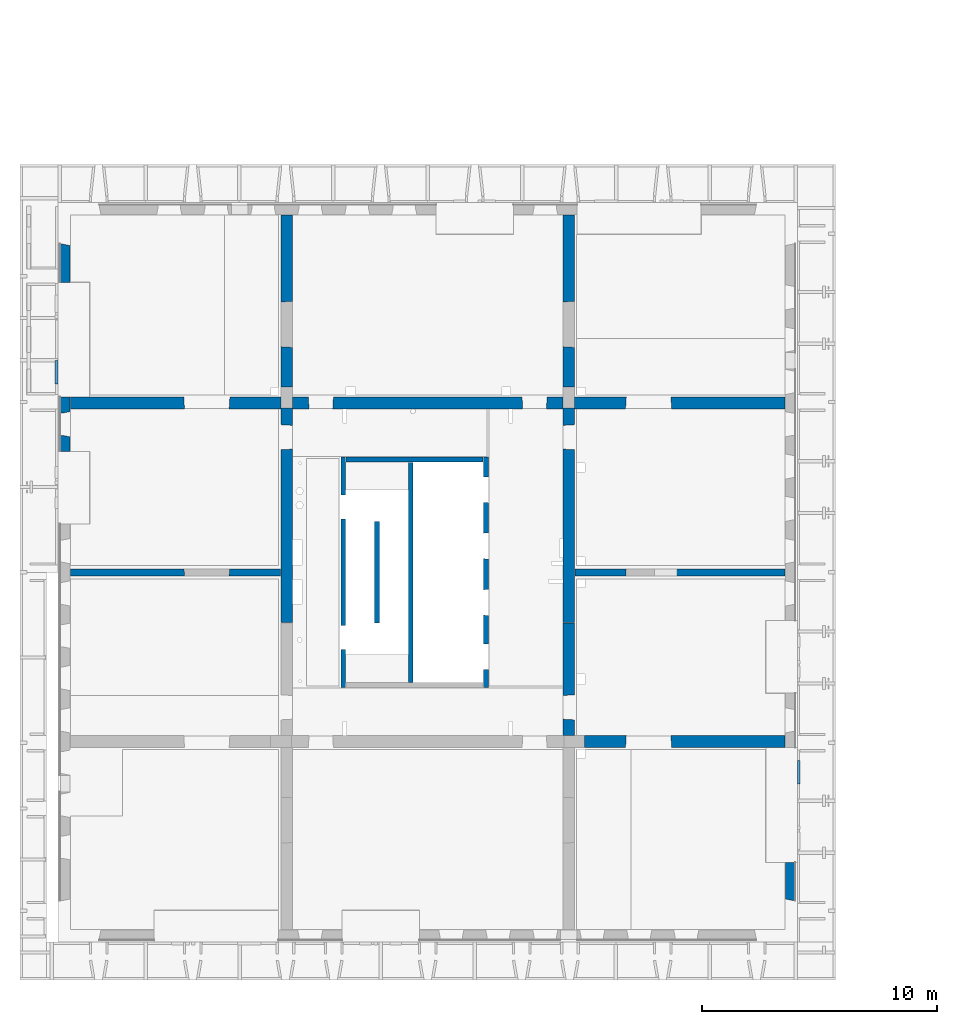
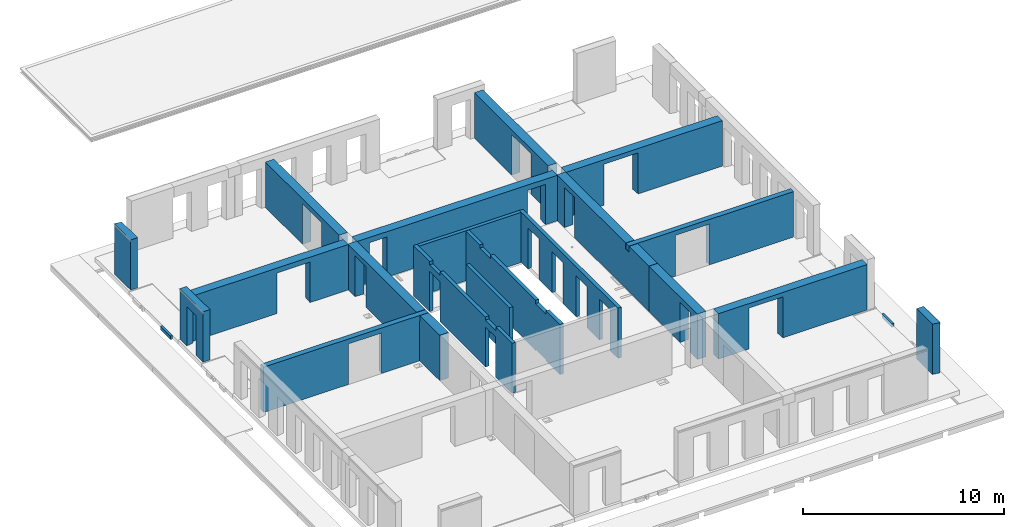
# One storey, part 22 of 27: 21 walls, 35 openings.
"""IFC2X3 building model written with IfcOpenShell, lengths in millimetres."""

from ifc_helpers import new_model, entity, si_unit, converted_unit, derived_unit, direction, frame, frame_2d, origin, origin_2d_with_axis, place, context, subcontext, project, spatial, rectangle, extrude, faceted_brep, material, layer, layer_set, layer_usage, type_object, element, save


model = new_model("IFC2X3")

# Units and contexts
model_context = context("Model", 3, precision=0.01, world=origin(), true_north=direction((6.12303176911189e-17, 1.0)))
body_context = subcontext(model_context, "Body", "Model", "MODEL_VIEW")
ifc_project = project(units=[si_unit("LENGTHUNIT", "METRE", prefix="MILLI"), si_unit("AREAUNIT", "SQUARE_METRE"), si_unit("VOLUMEUNIT", "CUBIC_METRE"), converted_unit("PLANEANGLEUNIT", "DEGREE", entity("IfcRatioMeasure", 0.0174532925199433), si_unit("PLANEANGLEUNIT", "RADIAN"), dimensions=[0, 0, 0, 0, 0, 0, 0]), si_unit("MASSUNIT", "GRAM", prefix="KILO"), derived_unit("MASSDENSITYUNIT", [(si_unit("MASSUNIT", "GRAM", prefix="KILO"), 1), (si_unit("LENGTHUNIT", "METRE"), -3)]), si_unit("TIMEUNIT", "SECOND"), si_unit("FREQUENCYUNIT", "HERTZ"), si_unit("THERMODYNAMICTEMPERATUREUNIT", "DEGREE_CELSIUS"), derived_unit("THERMALTRANSMITTANCEUNIT", [(si_unit("MASSUNIT", "GRAM", prefix="KILO"), 1), (si_unit("THERMODYNAMICTEMPERATUREUNIT", "KELVIN"), -1), (si_unit("TIMEUNIT", "SECOND"), -3)]), derived_unit("VOLUMETRICFLOWRATEUNIT", [(si_unit("LENGTHUNIT", "METRE"), 3), (si_unit("TIMEUNIT", "SECOND"), -1)]), si_unit("ELECTRICCURRENTUNIT", "AMPERE"), si_unit("ELECTRICVOLTAGEUNIT", "VOLT"), si_unit("POWERUNIT", "WATT"), si_unit("FORCEUNIT", "NEWTON", prefix="KILO"), si_unit("ILLUMINANCEUNIT", "LUX"), si_unit("LUMINOUSFLUXUNIT", "LUMEN"), si_unit("LUMINOUSINTENSITYUNIT", "CANDELA"), derived_unit("USERDEFINED", [(si_unit("MASSUNIT", "GRAM", prefix="KILO"), -1), (si_unit("LENGTHUNIT", "METRE"), -2), (si_unit("TIMEUNIT", "SECOND"), 3), (si_unit("LUMINOUSFLUXUNIT", "LUMEN"), 1)]), derived_unit("LINEARVELOCITYUNIT", [(si_unit("LENGTHUNIT", "METRE"), 1), (si_unit("TIMEUNIT", "SECOND"), -1)]), si_unit("PRESSUREUNIT", "PASCAL"), derived_unit("USERDEFINED", [(si_unit("LENGTHUNIT", "METRE"), -2), (si_unit("MASSUNIT", "GRAM", prefix="KILO"), 1), (si_unit("TIMEUNIT", "SECOND"), -2)])], contexts=[model_context])

# Site, building, storey
site_placement = place(None, origin())
site = spatial("IfcSite", under=ifc_project, at=site_placement, Name="Default", CompositionType="ELEMENT")
building_placement = place(site_placement, origin())
building = spatial("IfcBuilding", under=site, at=building_placement, Name="niet gebruiken", CompositionType="ELEMENT")
storey_placement = place(building_placement, frame((0.0, 0.0, 18000.0)))
storey = spatial("IfcBuildingStorey", under=building, at=storey_placement, Name="05 vijfde verdieping", CompositionType="ELEMENT", Elevation=18000.0)

# Wall, openings
ifc_material_1 = material(Name="NLRS_f2_beton prefab")
ifc_layer_1 = layer(ifc_material_1, 200.0)
ifc_layer_set_1 = layer_set([ifc_layer_1], Name="Basic Wall:NLRS_22.21_WA_beton prefab d=200_gen")
ifc_layer_usage_1 = layer_usage(ifc_layer_set_1, "AXIS2", "NEGATIVE", 100.0)
wall_type_1 = type_object("IfcWallType", Name="Basic Wall:NLRS_22.21_WA_beton prefab d=200_gen", PredefinedType="STANDARD", material=ifc_layer_set_1)
wall_1_placement = place(storey_placement, frame((138150.0, 22400.0, -50.0), z_axis=(0.0, 0.0, 1.0), x_axis=(0.0, -1.0, 0.0)))
wall_1 = element("IfcWallStandardCase", 1, at=wall_1_placement, inside=storey, type_object=wall_type_1, material=ifc_layer_usage_1, Name="Basic Wall:NLRS_22.21_WA_beton prefab d=200_gen", ObjectType="Basic Wall:NLRS_22.21_WA_beton prefab d=200_gen", context=body_context, shape_type="SweptSolid", body=[
    extrude(rectangle(XDim=9800.0, YDim=199.999999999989, at=frame_2d((4900.0, 3.76587649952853e-13), x_axis=(-1.0, 0.0))), origin(), (0.0, 0.0, 1.0), 3039.99999999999),
])
opening_1_placement = place(wall_1_placement, origin())
element("IfcOpeningElement", 2, at=opening_1_placement, cuts=wall_1, Name="Basic Wall:NLRS_22.21_WA_beton prefab d=200_gen", ObjectType="Opening", context=body_context, shape_type="SweptSolid", body=[
    extrude(rectangle(XDim=199.999999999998, YDim=1044.0, at=origin_2d_with_axis()), frame((7672.0, -100.0, 2940.0), z_axis=(0.0, 1.0, 0.0), x_axis=(0.0, 0.0, -1.0)), (0.0, 0.0, 1.0), 199.999999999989),
])
opening_2_placement = place(wall_1_placement, origin())
element("IfcOpeningElement", 3, at=opening_2_placement, cuts=wall_1, Name="Basic Wall:NLRS_22.21_WA_beton prefab d=200_gen", ObjectType="Opening", context=body_context, shape_type="SweptSolid", body=[
    extrude(rectangle(XDim=199.999999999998, YDim=1044.0, at=frame_2d((0.0, -2.1600499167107e-12), x_axis=(1.0, 0.0))), frame((2128.0, -100.0, 2940.0), z_axis=(0.0, 1.0, 0.0), x_axis=(0.0, 0.0, -1.0)), (0.0, 0.0, 1.0), 199.999999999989),
])
opening_3_placement = place(wall_1_placement, origin())
element("IfcOpeningElement", 4, at=opening_3_placement, cuts=wall_1, Name="Basic Wall:NLRS_22.21_WA_beton prefab d=200_gen", ObjectType="Opening", context=body_context, shape_type="SweptSolid", body=[
    extrude(rectangle(XDim=2435.00000000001, YDim=1015.99999999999, at=frame_2d((-1.13686837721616e-12, 1.10844666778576e-12), x_axis=(1.0, 0.0))), frame((7672.0, -100.0, 1217.5), z_axis=(0.0, 1.0, 0.0), x_axis=(0.0, 0.0, -1.0)), (0.0, 0.0, 1.0), 199.999999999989),
])
opening_4_placement = place(wall_1_placement, origin())
element("IfcOpeningElement", 5, at=opening_4_placement, cuts=wall_1, Name="Basic Wall:NLRS_22.21_WA_beton prefab d=200_gen", ObjectType="Opening", context=body_context, shape_type="SweptSolid", body=[
    extrude(rectangle(XDim=2435.00000000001, YDim=1015.99999999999, at=frame_2d((-1.13686837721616e-12, -2.18847162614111e-12), x_axis=(1.0, 0.0))), frame((2128.0, -100.0, 1217.5), z_axis=(0.0, 1.0, 0.0), x_axis=(0.0, 0.0, -1.0)), (0.0, 0.0, 1.0), 199.999999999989),
])

ifc_layer_usage_2 = layer_usage(ifc_layer_set_1, "AXIS2", "NEGATIVE", 100.0)
wall_2_placement = place(storey_placement, frame((144230.0, 22400.0, -50.0), z_axis=(0.0, 0.0, 1.0), x_axis=(0.0, -1.0, 0.0)))
wall_2 = element("IfcWallStandardCase", 6, at=wall_2_placement, inside=storey, type_object=wall_type_1, material=ifc_layer_usage_2, Name="Basic Wall:NLRS_22.21_WA_beton prefab d=200_gen", ObjectType="Basic Wall:NLRS_22.21_WA_beton prefab d=200_gen", context=body_context, shape_type="SweptSolid", body=[
    extrude(rectangle(XDim=9800.0, YDim=199.999999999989, at=frame_2d((4900.0, -3.69482222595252e-13), x_axis=(-1.0, 0.0))), origin(), (0.0, 0.0, 1.0), 3039.99999999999),
])
opening_5_placement = place(wall_2_placement, frame((9047.0, -100.0, 0.0)))
element("IfcOpeningElement", 7, at=opening_5_placement, cuts=wall_2, Name="Basic Wall:NLRS_22.21_WA_beton prefab d=200_gen", ObjectType="Opening", context=body_context, shape_type="Brep", body=[
    faceted_brep([(-1104.0, 200.0, 2502.0), (-1104.0, 200.0, 0.0), (-1092.0, 0.0, 0.0), (-1092.0, 0.0, 2490.0), (0.0, 200.0, 0.0), (-12.0, 0.0, 0.0), (-12.0, 0.0, 2490.0), (0.0, 200.0, 2502.0)], [[[0, 1, 2, 3]], [[1, 4, 5, 2]], [[6, 3, 2, 5]], [[7, 4, 1, 0]], [[7, 0, 3, 6]], [[4, 7, 6, 5]]]),
])
opening_6_placement = place(wall_2_placement, frame((6737.0, -100.0, 0.0)))
element("IfcOpeningElement", 8, at=opening_6_placement, cuts=wall_2, Name="Basic Wall:NLRS_22.21_WA_beton prefab d=200_gen", ObjectType="Opening", context=body_context, shape_type="Brep", body=[
    faceted_brep([(-1104.0, 200.0, 2502.0), (-1104.0, 200.0, 0.0), (-1092.0, 0.0, 0.0), (-1092.0, 0.0, 2490.0), (0.0, 200.0, 0.0), (-12.0, 0.0, 0.0), (-12.0, 0.0, 2490.0), (0.0, 200.0, 2502.0)], [[[0, 1, 2, 3]], [[1, 4, 5, 2]], [[6, 3, 2, 5]], [[7, 4, 1, 0]], [[7, 0, 3, 6]], [[4, 7, 6, 5]]]),
])
opening_7_placement = place(wall_2_placement, frame((4332.0, -100.0, 0.0)))
element("IfcOpeningElement", 9, at=opening_7_placement, cuts=wall_2, Name="Basic Wall:NLRS_22.21_WA_beton prefab d=200_gen", ObjectType="Opening", context=body_context, shape_type="Brep", body=[
    faceted_brep([(-1104.0, 200.0, 2502.0), (-1104.0, 200.0, 0.0), (-1092.0, 0.0, 0.0), (-1092.0, 0.0, 2490.0), (0.0, 200.0, 0.0), (-12.0, 0.0, 0.0), (-12.0, 0.0, 2490.0), (0.0, 200.0, 2502.0)], [[[0, 1, 2, 3]], [[1, 4, 5, 2]], [[6, 3, 2, 5]], [[7, 4, 1, 0]], [[7, 0, 3, 6]], [[4, 7, 6, 5]]]),
])
opening_8_placement = place(wall_2_placement, frame((1942.0, -100.0, 0.0)))
element("IfcOpeningElement", 10, at=opening_8_placement, cuts=wall_2, Name="Basic Wall:NLRS_22.21_WA_beton prefab d=200_gen", ObjectType="Opening", context=body_context, shape_type="Brep", body=[
    faceted_brep([(-1104.0, 200.0, 2502.0), (-1104.0, 200.0, 0.0), (-1092.0, 0.0, 0.0), (-1092.0, 0.0, 2490.0), (0.0, 200.0, 0.0), (-12.0, 0.0, 0.0), (-12.0, 0.0, 2490.0), (0.0, 200.0, 2502.0)], [[[0, 1, 2, 3]], [[1, 4, 5, 2]], [[6, 3, 2, 5]], [[7, 4, 1, 0]], [[7, 0, 3, 6]], [[4, 7, 6, 5]]]),
])

ifc_layer_usage_3 = layer_usage(ifc_layer_set_1, "AXIS2", "NEGATIVE", 100.0)
wall_3_placement = place(storey_placement, frame((141030.0, 22180.0, -50.0), z_axis=(0.0, 0.0, 1.0), x_axis=(0.0, -1.0, 0.0)))
wall_3 = element("IfcWallStandardCase", 11, at=wall_3_placement, inside=storey, type_object=wall_type_1, material=ifc_layer_usage_3, Name="Basic Wall:NLRS_22.21_WA_beton prefab d=200_gen", ObjectType="Basic Wall:NLRS_22.21_WA_beton prefab d=200_gen", context=body_context, shape_type="SweptSolid", body=[
    extrude(rectangle(XDim=9360.0, YDim=199.999999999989, at=frame_2d((4680.0, -2.8421709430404e-14), x_axis=(-1.0, 0.0))), origin(), (0.0, 0.0, 1.0), 3039.99999999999),
])
opening_9_placement = place(wall_3_placement, origin())
element("IfcOpeningElement", 12, at=opening_9_placement, cuts=wall_3, Name="Basic Wall:NLRS_22.21_WA_beton prefab d=200_gen", ObjectType="Opening", context=body_context, shape_type="SweptSolid", body=[
    extrude(rectangle(XDim=70.0000000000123, YDim=1044.0, at=frame_2d((1.08357767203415e-12, 0.0), x_axis=(1.0, 0.0))), frame((7452.0, -100.0, 35.0), z_axis=(0.0, 1.0, 0.0), x_axis=(0.0, 0.0, -1.0)), (0.0, 0.0, 1.0), 199.999999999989),
])
opening_10_placement = place(wall_3_placement, origin())
element("IfcOpeningElement", 13, at=opening_10_placement, cuts=wall_3, Name="Basic Wall:NLRS_22.21_WA_beton prefab d=200_gen", ObjectType="Opening", context=body_context, shape_type="SweptSolid", body=[
    extrude(rectangle(XDim=70.0000000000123, YDim=1044.0, at=frame_2d((1.08357767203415e-12, 2.1600499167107e-12), x_axis=(1.0, 0.0))), frame((1908.0, -100.0, 35.0), z_axis=(0.0, 1.0, 0.0), x_axis=(0.0, 0.0, -1.0)), (0.0, 0.0, 1.0), 199.999999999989),
])
opening_11_placement = place(wall_3_placement, origin())
element("IfcOpeningElement", 14, at=opening_11_placement, cuts=wall_3, Name="Basic Wall:NLRS_22.21_WA_beton prefab d=200_gen", ObjectType="Opening", context=body_context, shape_type="SweptSolid", body=[
    extrude(rectangle(XDim=200.000000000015, YDim=1044.0, at=frame_2d((0.0, 2.1600499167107e-12), x_axis=(1.0, 0.0))), frame((1908.0, -100.0, 2940.0), z_axis=(0.0, 1.0, 0.0), x_axis=(0.0, 0.0, -1.0)), (0.0, 0.0, 1.0), 199.999999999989),
])
opening_12_placement = place(wall_3_placement, origin())
element("IfcOpeningElement", 15, at=opening_12_placement, cuts=wall_3, Name="Basic Wall:NLRS_22.21_WA_beton prefab d=200_gen", ObjectType="Opening", context=body_context, shape_type="SweptSolid", body=[
    extrude(rectangle(XDim=200.000000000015, YDim=1044.0, at=frame_2d((0.0, 2.1600499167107e-12), x_axis=(1.0, 0.0))), frame((7452.0, -100.0, 2940.0), z_axis=(0.0, 1.0, 0.0), x_axis=(0.0, 0.0, -1.0)), (0.0, 0.0, 1.0), 199.999999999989),
])
opening_13_placement = place(wall_3_placement, origin())
element("IfcOpeningElement", 16, at=opening_13_placement, cuts=wall_3, Name="Basic Wall:NLRS_22.21_WA_beton prefab d=200_gen", ObjectType="Recess", context=body_context, shape_type="SweptSolid", body=[
    extrude(rectangle(XDim=399.999999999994, YDim=279.999999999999, at=frame_2d((-1.08002495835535e-12, 1.08002495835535e-12), x_axis=(0.0, 1.0))), frame((3960.0, -60.0, 438.0), z_axis=(0.0, 1.0, 0.0), x_axis=(1.0, 0.0, 0.0)), (0.0, 0.0, 1.0), 159.999999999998),
])
opening_14_placement = place(wall_3_placement, origin())
element("IfcOpeningElement", 17, at=opening_14_placement, cuts=wall_3, Name="Basic Wall:NLRS_22.21_WA_beton prefab d=200_gen", ObjectType="Recess", context=body_context, shape_type="SweptSolid", body=[
    extrude(rectangle(XDim=399.999999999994, YDim=279.999999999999, at=frame_2d((1.08002495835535e-12, -1.08002495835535e-12), x_axis=(0.0, 1.0))), frame((3160.0, -60.0, 438.0), z_axis=(0.0, 1.0, 0.0), x_axis=(1.0, 0.0, 0.0)), (0.0, 0.0, 1.0), 159.999999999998),
])
opening_15_placement = place(wall_3_placement, origin())
element("IfcOpeningElement", 18, at=opening_15_placement, cuts=wall_3, Name="Basic Wall:NLRS_22.21_WA_beton prefab d=200_gen", ObjectType="Recess", context=body_context, shape_type="SweptSolid", body=[
    extrude(rectangle(XDim=399.999999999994, YDim=280.000000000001, at=frame_2d((-2.1600499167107e-12, 1.08002495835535e-12), x_axis=(0.0, 1.0))), frame((1570.0, -60.0, 438.0), z_axis=(0.0, 1.0, 0.0), x_axis=(1.0, 0.0, 0.0)), (0.0, 0.0, 1.0), 159.999999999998),
])
opening_16_placement = place(wall_3_placement, origin())
element("IfcOpeningElement", 19, at=opening_16_placement, cuts=wall_3, Name="Basic Wall:NLRS_22.21_WA_beton prefab d=200_gen", ObjectType="Recess", context=body_context, shape_type="SweptSolid", body=[
    extrude(rectangle(XDim=399.999999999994, YDim=280.000000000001, at=frame_2d((-2.1600499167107e-12, 1.08002495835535e-12), x_axis=(0.0, 1.0))), frame((770.0, -60.0, 438.0), z_axis=(0.0, 1.0, 0.0), x_axis=(1.0, 0.0, 0.0)), (0.0, 0.0, 1.0), 159.999999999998),
])

# Walls
ifc_layer_usage_4 = layer_usage(ifc_layer_set_1, "AXIS2", "NEGATIVE", 100.0)
wall_4_placement = place(storey_placement, frame((139590.0, 19660.0, -50.0), z_axis=(0.0, 0.0, 1.0), x_axis=(0.0, -1.0, 0.0)))
element("IfcWallStandardCase", 20, at=wall_4_placement, inside=storey, type_object=wall_type_1, material=ifc_layer_usage_4, Name="Basic Wall:NLRS_22.21_WA_beton prefab d=200_gen", ObjectType="Basic Wall:NLRS_22.21_WA_beton prefab d=200_gen", context=body_context, shape_type="SweptSolid", body=[
    extrude(rectangle(XDim=4320.00000000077, YDim=199.999999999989, at=frame_2d((2160.00000000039, 0.0), x_axis=(-1.0, 0.0))), origin(), (0.0, 0.0, 1.0), 3039.99999999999),
])
ifc_layer_usage_5 = layer_usage(ifc_layer_set_1, "AXIS2", "NEGATIVE", 100.0)
wall_5_placement = place(storey_placement, frame((138270.0, 22300.0, -50.0)))
element("IfcWallStandardCase", 21, at=wall_5_placement, inside=storey, type_object=wall_type_1, material=ifc_layer_usage_5, Name="Basic Wall:NLRS_22.21_WA_beton prefab d=200_gen", ObjectType="Basic Wall:NLRS_22.21_WA_beton prefab d=200_gen", context=body_context, shape_type="SweptSolid", body=[
    extrude(rectangle(XDim=5839.99999999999, YDim=199.999999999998, at=frame_2d((2919.99999999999, -7.60280727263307e-13), x_axis=(-1.0, 0.0))), origin(), (0.0, 0.0, 1.0), 3039.99999999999),
])

# Wall, openings
ifc_layer_2 = layer(ifc_material_1, 300.0)
ifc_layer_set_2 = layer_set([ifc_layer_2], Name="Basic Wall:NLRS_22.21_WA_beton prefab d=300_gen")
ifc_layer_usage_6 = layer_usage(ifc_layer_set_2, "AXIS2", "NEGATIVE", 150.0)
wall_type_2 = type_object("IfcWallType", Name="Basic Wall:NLRS_22.21_WA_beton prefab d=300_gen", PredefinedType="STANDARD", material=ifc_layer_set_2)
wall_6_placement = place(storey_placement, frame((126540.0, 17500.0, -60.0)))
wall_6 = element("IfcWallStandardCase", 22, at=wall_6_placement, inside=storey, type_object=wall_type_2, material=ifc_layer_usage_6, Name="Basic Wall:NLRS_22.21_WA_beton prefab d=300_gen", ObjectType="Basic Wall:NLRS_22.21_WA_beton prefab d=300_gen", context=body_context, shape_type="SweptSolid", body=[
    extrude(rectangle(XDim=9459.99999999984, YDim=300.000000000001, at=frame_2d((4729.99999999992, -2.70006239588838e-13), x_axis=(-1.0, 0.0))), origin(), (0.0, 0.0, 1.0), 2759.99999999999),
])
opening_17_placement = place(wall_6_placement, frame((4842.0, -150.0, 0.0)))
element("IfcOpeningElement", 23, at=opening_17_placement, cuts=wall_6, Name="Basic Wall:NLRS_22.21_WA_beton prefab d=300_gen", ObjectType="Opening", context=body_context, shape_type="Brep", body=[
    faceted_brep([(0.0, 300.0, 2478.0), (0.0, 300.0, 0.0), (18.0, 0.0, 0.0), (18.0, 0.0, 2460.0), (1936.0, 300.0, 0.0), (1918.0, 0.0, 0.0), (1918.0, 0.0, 2460.0), (1936.0, 300.0, 2478.0)], [[[0, 1, 2, 3]], [[1, 4, 5, 2]], [[6, 3, 2, 5]], [[7, 4, 1, 0]], [[7, 0, 3, 6]], [[4, 7, 6, 5]]]),
])
opening_18_placement = place(wall_6_placement, origin())
element("IfcOpeningElement", 24, at=opening_18_placement, cuts=wall_6, Name="Basic Wall:NLRS_22.21_WA_beton prefab d=300_gen", ObjectType="Opening", context=body_context, shape_type="SweptSolid", body=[
    extrude(rectangle(XDim=2430.0, YDim=520.000000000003, at=frame_2d((8.64019966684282e-12, 0.0), x_axis=(0.0, 1.0))), frame((9200.0, 150.0, 1215.0), z_axis=(0.0, -1.0, 0.0), x_axis=(1.0, 0.0, 0.0)), (0.0, 0.0, 1.0), 300.0),
])

ifc_layer_usage_7 = layer_usage(ifc_layer_set_2, "AXIS2", "NEGATIVE", 150.0)
wall_7_placement = place(storey_placement, frame((156960.0, 17500.0, -60.0), z_axis=(0.0, 0.0, 1.0), x_axis=(-1.0, 0.0, 0.0)))
wall_7 = element("IfcWallStandardCase", 25, at=wall_7_placement, inside=storey, type_object=wall_type_2, material=ifc_layer_usage_7, Name="Basic Wall:NLRS_22.21_WA_beton prefab d=300_gen", ObjectType="Basic Wall:NLRS_22.21_WA_beton prefab d=300_gen", context=body_context, shape_type="SweptSolid", body=[
    extrude(rectangle(XDim=9459.99999999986, YDim=300.000000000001, at=frame_2d((4729.99999999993, -1.4210854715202e-14), x_axis=(-1.0, 0.0))), origin(), (0.0, 0.0, 1.0), 2759.99999999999),
])
opening_19_placement = place(wall_7_placement, frame((6778.0, 150.0, 0.0)))
element("IfcOpeningElement", 26, at=opening_19_placement, cuts=wall_7, Name="Basic Wall:NLRS_22.21_WA_beton prefab d=300_gen", ObjectType="Opening", context=body_context, shape_type="Brep", body=[
    faceted_brep([(-1936.0, 0.0, 2478.0), (-1936.0, 0.0, 0.0), (-1918.0, -300.0, 0.0), (-1918.0, -300.0, 2460.0), (0.0, 0.0, 0.0), (-18.0, -300.0, 0.0), (-18.0, -300.0, 2460.0), (0.0, 0.0, 2478.0)], [[[0, 1, 2, 3]], [[1, 4, 5, 2]], [[6, 3, 2, 5]], [[7, 4, 1, 0]], [[7, 0, 3, 6]], [[4, 7, 6, 5]]]),
])
opening_20_placement = place(wall_7_placement, origin())
element("IfcOpeningElement", 27, at=opening_20_placement, cuts=wall_7, Name="Basic Wall:NLRS_22.21_WA_beton prefab d=300_gen", ObjectType="Opening", context=body_context, shape_type="SweptSolid", body=[
    extrude(rectangle(XDim=2430.0, YDim=520.00000000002, at=frame_2d((0.0, 0.0), x_axis=(0.0, 1.0))), frame((9200.0, 150.0, 1215.0), z_axis=(0.0, -1.0, 0.0), x_axis=(1.0, 0.0, 0.0)), (0.0, 0.0, 1.0), 300.0),
])

# Wall, opening
ifc_layer_3 = layer(ifc_material_1, 400.0)
ifc_layer_set_3 = layer_set([ifc_layer_3], Name="Basic Wall:NLRS_21.21_WA_beton prefab d=400/420_gen")
ifc_layer_usage_8 = layer_usage(ifc_layer_set_3, "AXIS2", "NEGATIVE", 200.0)
wall_type_3 = type_object("IfcWallType", Name="Basic Wall:NLRS_21.21_WA_beton prefab d=400/420_gen", PredefinedType="STANDARD", material=ifc_layer_set_3)
wall_8_placement = place(storey_placement, frame((126320.0, 29840.0, -60.0), z_axis=(0.0, 0.0, 1.0), x_axis=(0.0, 1.0, 0.0)))
wall_8 = element("IfcWallStandardCase", 28, at=wall_8_placement, inside=storey, type_object=wall_type_3, material=ifc_layer_usage_8, Name="Basic Wall:NLRS_21.21_WA_beton prefab d=400/420_gen", ObjectType="Basic Wall:NLRS_21.21_WA_beton prefab d=400/420_gen", context=body_context, shape_type="SweptSolid", body=[
    extrude(rectangle(XDim=1629.99999999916, YDim=400.000000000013, at=frame_2d((814.999999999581, 2.41584530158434e-12), x_axis=(-1.0, 0.0))), origin(), (0.0, 0.0, 1.0), 3049.99999999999),
])
opening_21_placement = place(wall_8_placement, frame((1565.0, 119.0, 0.0)))
element("IfcOpeningElement", 29, at=opening_21_placement, cuts=wall_8, Name="Basic Wall:NLRS_21.21_WA_beton prefab d=400/420_gen", ObjectType="Opening", context=body_context, shape_type="Brep", body=[
    faceted_brep([(65.0, -319.0, 3050.0), (65.0, 0.0, 3050.0), (0.0, -319.0, 3050.0), (65.0, -319.0, 0.0), (0.0, -319.0, 0.0), (65.0, 0.0, 0.0)], [[[0, 1, 2]], [[3, 4, 5]], [[2, 4, 3, 0]], [[0, 3, 5, 1]], [[1, 5, 4, 2]]]),
])

ifc_layer_usage_9 = layer_usage(ifc_layer_set_3, "AXIS2", "NEGATIVE", 200.0)
wall_9_placement = place(storey_placement, frame((157180.0, 5160.0, -60.0), z_axis=(0.0, 0.0, 1.0), x_axis=(0.0, -1.0, 0.0)))
wall_9 = element("IfcWallStandardCase", 30, at=wall_9_placement, inside=storey, type_object=wall_type_3, material=ifc_layer_usage_9, Name="Basic Wall:NLRS_21.21_WA_beton prefab d=400/420_gen", ObjectType="Basic Wall:NLRS_21.21_WA_beton prefab d=400/420_gen", context=body_context, shape_type="SweptSolid", body=[
    extrude(rectangle(XDim=1629.99999999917, YDim=399.999999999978, at=frame_2d((814.999999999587, 6.28119778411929e-12), x_axis=(-1.0, 0.0))), origin(), (0.0, 0.0, 1.0), 3049.99999999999),
])
opening_22_placement = place(wall_9_placement, frame((1630.0, -200.0, 0.0)))
element("IfcOpeningElement", 31, at=opening_22_placement, cuts=wall_9, Name="Basic Wall:NLRS_21.21_WA_beton prefab d=400/420_gen", ObjectType="Opening", context=body_context, shape_type="Brep", body=[
    faceted_brep([(0.0, 0.0, 3050.0), (0.0, 319.0, 3050.0), (-65.0, 0.0, 3050.0), (0.0, 0.0, 0.0), (-65.0, 0.0, 0.0), (0.0, 319.0, 0.0)], [[[0, 1, 2]], [[3, 4, 5]], [[2, 4, 3, 0]], [[0, 3, 5, 1]], [[1, 5, 4, 2]]]),
])

ifc_layer_usage_10 = layer_usage(ifc_layer_set_3, "AXIS2", "NEGATIVE", 200.0)
wall_10_placement = place(storey_placement, frame((126320.0, 22640.0, -60.0), z_axis=(0.0, 0.0, 1.0), x_axis=(0.0, 1.0, 0.0)))
wall_10 = element("IfcWallStandardCase", 32, at=wall_10_placement, inside=storey, type_object=wall_type_3, material=ifc_layer_usage_10, Name="Basic Wall:NLRS_21.21_WA_beton prefab d=400/420_gen", ObjectType="Basic Wall:NLRS_21.21_WA_beton prefab d=400/420_gen", context=body_context, shape_type="SweptSolid", body=[
    extrude(rectangle(XDim=2320.00000000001, YDim=400.000000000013, at=frame_2d((1160.0, -3.62376795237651e-12), x_axis=(-1.0, 0.0))), origin(), (0.0, 0.0, 1.0), 3049.99999999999),
])
opening_23_placement = place(wall_10_placement, frame((625.0, 200.0, 0.0)))
element("IfcOpeningElement", 33, at=opening_23_placement, cuts=wall_10, Name="Basic Wall:NLRS_21.21_WA_beton prefab d=400/420_gen", ObjectType="Opening", context=body_context, shape_type="Brep", body=[
    faceted_brep([(1070.0, -400.0, 0.0), (1005.0, -81.0, 0.0), (1005.0, -81.0, 2380.0), (1070.0, -400.0, 2415.0), (1005.0, 0.0, 2380.0), (1005.0, 0.0, 0.0), (0.0, -400.0, 2415.0), (0.0, -400.0, 0.0), (65.0, -81.0, 2380.0), (65.0, -81.0, 0.0), (65.0, 0.0, 0.0), (65.0, 0.0, 2380.0)], [[[0, 1, 2, 3]], [[4, 2, 1, 5]], [[6, 7, 0, 3]], [[3, 2, 8, 6]], [[7, 9, 10, 5, 1, 0]], [[6, 8, 9, 7]], [[11, 4, 5, 10]], [[11, 8, 2, 4]], [[10, 9, 8, 11]]]),
])

# Wall, openings
ifc_layer_4 = layer(ifc_material_1, 500.0)
ifc_layer_set_4 = layer_set([ifc_layer_4], Name="Basic Wall:NLRS_22.21_WA_beton prefab d=500_gen")
ifc_layer_usage_11 = layer_usage(ifc_layer_set_4, "AXIS2", "NEGATIVE", 250.0)
wall_type_4 = type_object("IfcWallType", Name="Basic Wall:NLRS_22.21_WA_beton prefab d=500_gen", PredefinedType="STANDARD", material=ifc_layer_set_4)
wall_11_placement = place(storey_placement, frame((136000.0, 24700.0, -60.0)))
wall_11 = element("IfcWallStandardCase", 34, at=wall_11_placement, inside=storey, type_object=wall_type_4, material=ifc_layer_usage_11, Name="Basic Wall:NLRS_22.21_WA_beton prefab d=500_gen", ObjectType="Basic Wall:NLRS_22.21_WA_beton prefab d=500_gen", context=body_context, shape_type="SweptSolid", body=[
    extrude(rectangle(XDim=11499.9999999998, YDim=499.999999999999, at=frame_2d((5749.99999999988, 0.0), x_axis=(-1.0, 0.0))), origin(), (0.0, 0.0, 1.0), 2759.99999999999),
])
opening_24_placement = place(wall_11_placement, frame((9764.0, -250.0, 0.0)))
element("IfcOpeningElement", 35, at=opening_24_placement, cuts=wall_11, Name="Basic Wall:NLRS_22.21_WA_beton prefab d=500_gen", ObjectType="Opening", context=body_context, shape_type="Brep", body=[
    faceted_brep([(30.0, 0.0, 2438.0), (30.0, 0.0, 0.0), (1036.0, 0.0, 0.0), (1036.0, 0.0, 2438.0), (0.0, 500.0, 2468.0), (1066.0, 500.0, 2468.0), (1066.0, 500.0, 0.0), (0.0, 500.0, 0.0)], [[[0, 1, 2, 3]], [[4, 5, 6, 7]], [[4, 0, 3, 5]], [[5, 3, 2, 6]], [[6, 2, 1, 7]], [[7, 1, 0, 4]]]),
])
opening_25_placement = place(wall_11_placement, frame((670.0, -250.0, 0.0)))
element("IfcOpeningElement", 36, at=opening_25_placement, cuts=wall_11, Name="Basic Wall:NLRS_22.21_WA_beton prefab d=500_gen", ObjectType="Opening", context=body_context, shape_type="Brep", body=[
    faceted_brep([(1066.0, 500.0, 2468.0), (1036.0, 0.0, 2438.0), (1036.0, 0.0, 0.0), (1066.0, 500.0, 0.0), (30.0, 0.0, 0.0), (0.0, 500.0, 0.0), (30.0, 0.0, 2438.0), (0.0, 500.0, 2468.0)], [[[0, 1, 2, 3]], [[3, 2, 4, 5]], [[6, 4, 2, 1]], [[7, 0, 3, 5]], [[7, 6, 1, 0]], [[5, 4, 6, 7]]]),
])

# Wall, opening
ifc_layer_usage_12 = layer_usage(ifc_layer_set_4, "AXIS2", "NEGATIVE", 250.0)
wall_12_placement = place(storey_placement, frame((147750.0, 15340.0, -60.0), z_axis=(0.0, 0.0, 1.0), x_axis=(0.0, -1.0, 0.0)))
wall_12 = element("IfcWallStandardCase", 37, at=wall_12_placement, inside=storey, type_object=wall_type_4, material=ifc_layer_usage_12, Name="Basic Wall:NLRS_22.21_WA_beton prefab d=500_gen", ObjectType="Basic Wall:NLRS_22.21_WA_beton prefab d=500_gen", context=body_context, shape_type="SweptSolid", body=[
    extrude(rectangle(XDim=4789.99999999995, YDim=499.99999999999, at=frame_2d((2394.99999999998, 0.0), x_axis=(-1.0, 0.0))), origin(), (0.0, 0.0, 1.0), 2760.0),
])
opening_26_placement = place(wall_12_placement, frame((4120.0, -250.0, 0.0)))
element("IfcOpeningElement", 38, at=opening_26_placement, cuts=wall_12, Name="Basic Wall:NLRS_22.21_WA_beton prefab d=500_gen", ObjectType="Opening", context=body_context, shape_type="Brep", body=[
    faceted_brep([(-1066.0, 500.0, 2468.0), (-1066.0, 500.0, 0.0), (-1036.0, 0.0, 0.0), (-1036.0, 0.0, 2438.0), (0.0, 500.0, 0.0), (-30.0, 0.0, 0.0), (-30.0, 0.0, 2438.0), (0.0, 500.0, 2468.0)], [[[0, 1, 2, 3]], [[1, 4, 5, 2]], [[6, 3, 2, 5]], [[7, 4, 1, 0]], [[7, 0, 3, 6]], [[4, 7, 6, 5]]]),
])

# Wall, openings
ifc_layer_usage_13 = layer_usage(ifc_layer_set_4, "AXIS2", "NEGATIVE", 250.0)
wall_13_placement = place(storey_placement, frame((135750.0, 24500.0, -60.0), z_axis=(0.0, 0.0, 1.0), x_axis=(0.0, -1.0, 0.0)))
wall_13 = element("IfcWallStandardCase", 39, at=wall_13_placement, inside=storey, type_object=wall_type_4, material=ifc_layer_usage_13, Name="Basic Wall:NLRS_22.21_WA_beton prefab d=500_gen", ObjectType="Basic Wall:NLRS_22.21_WA_beton prefab d=500_gen", context=body_context, shape_type="SweptSolid", body=[
    extrude(rectangle(XDim=9140.0, YDim=499.99999999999, at=frame_2d((4570.0, 5.6843418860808e-14), x_axis=(-1.0, 0.0))), origin(), (0.0, 0.0, 1.0), 2760.00000000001),
])
opening_27_placement = place(wall_13_placement, frame((1786.0, -250.0, 0.0)))
element("IfcOpeningElement", 40, at=opening_27_placement, cuts=wall_13, Name="Basic Wall:NLRS_22.21_WA_beton prefab d=500_gen", ObjectType="Opening", context=body_context, shape_type="Brep", body=[
    faceted_brep([(-1066.0, 0.0, 2468.0), (-1036.0, 500.0, 2438.0), (-1036.0, 500.0, 0.0), (-1066.0, 0.0, 0.0), (-30.0, 500.0, 0.0), (0.0, 0.0, 0.0), (-30.0, 500.0, 2438.0), (0.0, 0.0, 2468.0)], [[[0, 1, 2, 3]], [[3, 2, 4, 5]], [[6, 4, 2, 1]], [[7, 0, 3, 5]], [[7, 6, 1, 0]], [[5, 4, 6, 7]]]),
])
opening_28_placement = place(wall_13_placement, origin())
element("IfcOpeningElement", 41, at=opening_28_placement, cuts=wall_13, Name="Basic Wall:NLRS_22.21_WA_beton prefab d=500_gen", ObjectType="Opening", context=body_context, shape_type="SweptSolid", body=[
    extrude(rectangle(XDim=349.999999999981, YDim=340.000000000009, at=frame_2d((0.0, 4.33431068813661e-12), x_axis=(0.0, 1.0))), frame((7000.0, 250.0, 2585.0), z_axis=(0.0, -1.0, 0.0), x_axis=(-1.0, 0.0, 0.0)), (0.0, 0.0, 1.0), 500.0),
])

ifc_layer_usage_14 = layer_usage(ifc_layer_set_4, "AXIS2", "NEGATIVE", 250.0)
wall_14_placement = place(storey_placement, frame((147750.0, 24500.0, -60.0), z_axis=(0.0, 0.0, 1.0), x_axis=(0.0, -1.0, 0.0)))
wall_14 = element("IfcWallStandardCase", 42, at=wall_14_placement, inside=storey, type_object=wall_type_4, material=ifc_layer_usage_14, Name="Basic Wall:NLRS_22.21_WA_beton prefab d=500_gen", ObjectType="Basic Wall:NLRS_22.21_WA_beton prefab d=500_gen", context=body_context, shape_type="SweptSolid", body=[
    extrude(rectangle(XDim=9140.00000000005, YDim=499.99999999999, at=frame_2d((4570.00000000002, -1.4210854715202e-14), x_axis=(-1.0, 0.0))), origin(), (0.0, 0.0, 1.0), 2759.99999999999),
])
opening_29_placement = place(wall_14_placement, frame((1786.0, -250.0, 0.0)))
element("IfcOpeningElement", 43, at=opening_29_placement, cuts=wall_14, Name="Basic Wall:NLRS_22.21_WA_beton prefab d=500_gen", ObjectType="Opening", context=body_context, shape_type="Brep", body=[
    faceted_brep([(-1066.0, 500.0, 2468.0), (-1066.0, 500.0, 0.0), (-1036.0, 0.0, 0.0), (-1036.0, 0.0, 2438.0), (0.0, 500.0, 0.0), (-30.0, 0.0, 0.0), (-30.0, 0.0, 2438.0), (0.0, 500.0, 2468.0)], [[[0, 1, 2, 3]], [[1, 4, 5, 2]], [[6, 3, 2, 5]], [[7, 4, 1, 0]], [[7, 0, 3, 6]], [[4, 7, 6, 5]]]),
])
opening_30_placement = place(wall_14_placement, origin())
element("IfcOpeningElement", 44, at=opening_30_placement, cuts=wall_14, Name="Basic Wall:NLRS_22.21_WA_beton prefab d=500_gen", ObjectType="Opening", context=body_context, shape_type="SweptSolid", body=[
    extrude(rectangle(XDim=350.000000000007, YDim=339.999999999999, at=frame_2d((-1.08002495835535e-12, 0.0), x_axis=(0.0, 1.0))), frame((7000.0, 250.0, 2585.0), z_axis=(0.0, -1.0, 0.0), x_axis=(-1.0, 0.0, 0.0)), (0.0, 0.0, 1.0), 500.0),
])

# Wall, opening
ifc_layer_usage_15 = layer_usage(ifc_layer_set_4, "AXIS2", "NEGATIVE", 250.0)
wall_15_placement = place(storey_placement, frame((147750.0, 25380.0, -60.0), z_axis=(0.0, 0.0, 1.0), x_axis=(0.0, 1.0, 0.0)))
wall_15 = element("IfcWallStandardCase", 45, at=wall_15_placement, inside=storey, type_object=wall_type_4, material=ifc_layer_usage_15, Name="Basic Wall:NLRS_22.21_WA_beton prefab d=500_gen", ObjectType="Basic Wall:NLRS_22.21_WA_beton prefab d=500_gen", context=body_context, shape_type="SweptSolid", body=[
    extrude(rectangle(XDim=7329.99999999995, YDim=499.99999999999, at=frame_2d((3664.99999999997, 1.10844666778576e-12), x_axis=(-1.0, 0.0))), origin(), (0.0, 0.0, 1.0), 2759.99999999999),
])
opening_31_placement = place(wall_15_placement, frame((1690.0, 250.0, 0.0)))
element("IfcOpeningElement", 46, at=opening_31_placement, cuts=wall_15, Name="Basic Wall:NLRS_22.21_WA_beton prefab d=500_gen", ObjectType="Opening", context=body_context, shape_type="Brep", body=[
    faceted_brep([(0.0, -500.0, 2490.0), (30.0, 0.0, 2460.0), (30.0, 0.0, 0.0), (0.0, -500.0, 0.0), (1930.0, 0.0, 0.0), (1960.0, -500.0, 0.0), (1930.0, 0.0, 2460.0), (1960.0, -500.0, 2490.0)], [[[0, 1, 2, 3]], [[3, 2, 4, 5]], [[6, 4, 2, 1]], [[7, 0, 3, 5]], [[7, 6, 1, 0]], [[5, 4, 6, 7]]]),
])

ifc_layer_usage_16 = layer_usage(ifc_layer_set_4, "AXIS2", "NEGATIVE", 250.0)
wall_16_placement = place(storey_placement, frame((135750.0, 25380.0, -60.0), z_axis=(0.0, 0.0, 1.0), x_axis=(0.0, 1.0, 0.0)))
wall_16 = element("IfcWallStandardCase", 47, at=wall_16_placement, inside=storey, type_object=wall_type_4, material=ifc_layer_usage_16, Name="Basic Wall:NLRS_22.21_WA_beton prefab d=500_gen", ObjectType="Basic Wall:NLRS_22.21_WA_beton prefab d=500_gen", context=body_context, shape_type="SweptSolid", body=[
    extrude(rectangle(XDim=7329.99999999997, YDim=499.99999999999, at=frame_2d((3664.99999999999, -3.83693077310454e-12), x_axis=(-1.0, 0.0))), origin(), (0.0, 0.0, 1.0), 2759.99999999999),
])
opening_32_placement = place(wall_16_placement, frame((1690.0, 250.0, 0.0)))
element("IfcOpeningElement", 48, at=opening_32_placement, cuts=wall_16, Name="Basic Wall:NLRS_22.21_WA_beton prefab d=500_gen", ObjectType="Opening", context=body_context, shape_type="Brep", body=[
    faceted_brep([(0.0, -500.0, 2490.0), (30.0, 0.0, 2460.0), (30.0, 0.0, 0.0), (0.0, -500.0, 0.0), (1930.0, 0.0, 0.0), (1960.0, -500.0, 0.0), (1930.0, 0.0, 2460.0), (1960.0, -500.0, 2490.0)], [[[0, 1, 2, 3]], [[3, 2, 4, 5]], [[6, 4, 2, 1]], [[7, 0, 3, 5]], [[7, 6, 1, 0]], [[5, 4, 6, 7]]]),
])

ifc_layer_usage_17 = layer_usage(ifc_layer_set_4, "AXIS2", "NEGATIVE", 250.0)
wall_17_placement = place(storey_placement, frame((148430.0, 10300.0, -60.0)))
wall_17 = element("IfcWallStandardCase", 49, at=wall_17_placement, inside=storey, type_object=wall_type_4, material=ifc_layer_usage_17, Name="Basic Wall:NLRS_22.21_WA_beton prefab d=500_gen", ObjectType="Basic Wall:NLRS_22.21_WA_beton prefab d=500_gen", context=body_context, shape_type="SweptSolid", body=[
    extrude(rectangle(XDim=8530.00000000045, YDim=499.999999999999, at=frame_2d((4265.00000000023, -2.27373675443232e-13), x_axis=(-1.0, 0.0))), origin(), (0.0, 0.0, 1.0), 2759.99999999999),
])
opening_33_placement = place(wall_17_placement, frame((1740.0, -250.0, 0.0)))
element("IfcOpeningElement", 50, at=opening_33_placement, cuts=wall_17, Name="Basic Wall:NLRS_22.21_WA_beton prefab d=500_gen", ObjectType="Opening", context=body_context, shape_type="Brep", body=[
    faceted_brep([(1960.0, 0.0, 2490.0), (1960.0, 0.0, 0.0), (1930.0, 500.0, 0.0), (1930.0, 500.0, 2460.0), (0.0, 0.0, 0.0), (30.0, 500.0, 0.0), (30.0, 500.0, 2460.0), (0.0, 0.0, 2490.0)], [[[0, 1, 2, 3]], [[1, 4, 5, 2]], [[6, 3, 2, 5]], [[7, 4, 1, 0]], [[7, 0, 3, 6]], [[4, 7, 6, 5]]]),
])

ifc_layer_usage_18 = layer_usage(ifc_layer_set_4, "AXIS2", "NEGATIVE", 250.0)
wall_18_placement = place(storey_placement, frame((156960.0, 24700.0, -60.0), z_axis=(0.0, 0.0, 1.0), x_axis=(-1.0, 0.0, 0.0)))
wall_18 = element("IfcWallStandardCase", 51, at=wall_18_placement, inside=storey, type_object=wall_type_4, material=ifc_layer_usage_18, Name="Basic Wall:NLRS_22.21_WA_beton prefab d=500_gen", ObjectType="Basic Wall:NLRS_22.21_WA_beton prefab d=500_gen", context=body_context, shape_type="SweptSolid", body=[
    extrude(rectangle(XDim=8960.00000000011, YDim=499.999999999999, at=frame_2d((4480.00000000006, 2.70006239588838e-13), x_axis=(-1.0, 0.0))), origin(), (0.0, 0.0, 1.0), 2759.99999999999),
])
opening_34_placement = place(wall_18_placement, frame((6790.0, 250.0, 0.0)))
element("IfcOpeningElement", 52, at=opening_34_placement, cuts=wall_18, Name="Basic Wall:NLRS_22.21_WA_beton prefab d=500_gen", ObjectType="Opening", context=body_context, shape_type="Brep", body=[
    faceted_brep([(-1960.0, 0.0, 2490.0), (-1960.0, 0.0, 0.0), (-1930.0, -500.0, 0.0), (-1930.0, -500.0, 2460.0), (0.0, 0.0, 0.0), (-30.0, -500.0, 0.0), (-30.0, -500.0, 2460.0), (0.0, 0.0, 2490.0)], [[[0, 1, 2, 3]], [[1, 4, 5, 2]], [[6, 3, 2, 5]], [[7, 4, 1, 0]], [[7, 0, 3, 6]], [[4, 7, 6, 5]]]),
])

ifc_layer_usage_19 = layer_usage(ifc_layer_set_4, "AXIS2", "NEGATIVE", 250.0)
wall_19_placement = place(storey_placement, frame((135500.0, 24700.0, -60.0), z_axis=(0.0, 0.0, 1.0), x_axis=(-1.0, 0.0, 0.0)))
wall_19 = element("IfcWallStandardCase", 53, at=wall_19_placement, inside=storey, type_object=wall_type_4, material=ifc_layer_usage_19, Name="Basic Wall:NLRS_22.21_WA_beton prefab d=500_gen", ObjectType="Basic Wall:NLRS_22.21_WA_beton prefab d=500_gen", context=body_context, shape_type="SweptSolid", body=[
    extrude(rectangle(XDim=8959.9999999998, YDim=499.999999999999, at=frame_2d((4479.9999999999, -8.66862137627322e-13), x_axis=(-1.0, 0.0))), origin(), (0.0, 0.0, 1.0), 2759.99999999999),
])
opening_35_placement = place(wall_19_placement, frame((4130.0, 250.0, 0.0)))
element("IfcOpeningElement", 54, at=opening_35_placement, cuts=wall_19, Name="Basic Wall:NLRS_22.21_WA_beton prefab d=500_gen", ObjectType="Opening", context=body_context, shape_type="Brep", body=[
    faceted_brep([(0.0, -500.0, 2490.0), (0.0, -500.0, 0.0), (-30.0, 0.0, 0.0), (-30.0, 0.0, 2460.0), (-1960.0, -500.0, 0.0), (-1930.0, 0.0, 0.0), (-1930.0, 0.0, 2460.0), (-1960.0, -500.0, 2490.0)], [[[0, 1, 2, 3]], [[1, 4, 5, 2]], [[6, 3, 2, 5]], [[7, 4, 1, 0]], [[7, 0, 3, 6]], [[4, 7, 6, 5]]]),
])

# Walls
ifc_material_2 = material(Name="NLRS_a_isolatie")
ifc_layer_5 = layer(ifc_material_2, 120.0)
ifc_layer_set_5 = layer_set([ifc_layer_5], Name="Basic Wall:NLRS_21.10_WA_isokorf d=120_gen")
ifc_layer_usage_20 = layer_usage(ifc_layer_set_5, "AXIS2", "NEGATIVE", 60.0)
wall_type_5 = type_object("IfcWallType", Name="Basic Wall:NLRS_21.10_WA_isokorf d=120_gen", PredefinedType="STANDARD", material=ifc_layer_set_5)
wall_20_placement = place(storey_placement, frame((125960.0, 25505.0, -360.0), z_axis=(0.0, 0.0, 1.0), x_axis=(0.0, 1.0, 0.0)))
element("IfcWallStandardCase", 55, at=wall_20_placement, inside=storey, type_object=wall_type_5, material=ifc_layer_usage_20, Name="Basic Wall:NLRS_21.10_WA_isokorf d=120_gen", ObjectType="Basic Wall:NLRS_21.10_WA_isokorf d=120_gen", context=body_context, shape_type="SweptSolid", body=[
    extrude(rectangle(XDim=1000.0, YDim=120.000000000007, at=frame_2d((499.999999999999, 1.81188397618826e-12), x_axis=(-1.0, 0.0))), origin(), (0.0, 0.0, 1.0), 220.000000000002),
])
ifc_layer_usage_21 = layer_usage(ifc_layer_set_5, "AXIS2", "NEGATIVE", 60.0)
wall_21_placement = place(storey_placement, frame((157540.0, 9495.00516263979, -360.0), z_axis=(0.0, 0.0, 1.0), x_axis=(0.0, -1.0, 0.0)))
element("IfcWallStandardCase", 56, at=wall_21_placement, inside=storey, type_object=wall_type_5, material=ifc_layer_usage_21, Name="Basic Wall:NLRS_21.10_WA_isokorf d=120_gen", ObjectType="Basic Wall:NLRS_21.10_WA_isokorf d=120_gen", context=body_context, shape_type="SweptSolid", body=[
    extrude(rectangle(XDim=1000.0, YDim=119.999999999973, at=frame_2d((500.0, 0.0), x_axis=(-1.0, 0.0))), origin(), (0.0, 0.0, 1.0), 220.000000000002),
])

save(model, "model.ifc")
